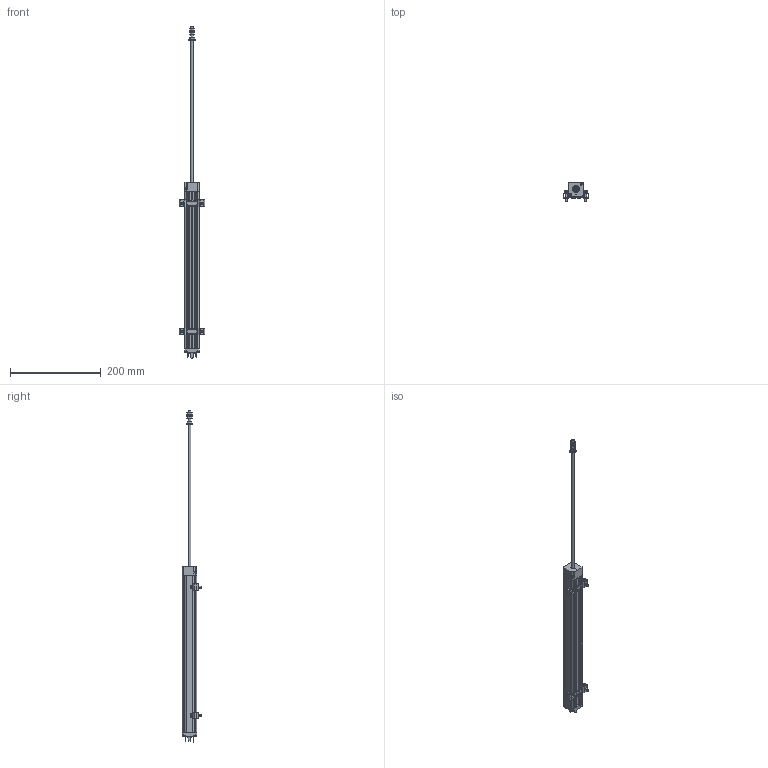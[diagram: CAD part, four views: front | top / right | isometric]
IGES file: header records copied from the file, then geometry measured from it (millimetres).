
Start section: SolidWorks IGES file using analytic representation for surfaces
Global section: file name: E:\Salzinger\I-net_3D\LWH_Essentials\LWH_prts\LWH_300.IGS; native system: SolidWorks 2008; preprocessor: SolidWorks 2008; author: salzinger; date: 081106.130239; units: millimetre
Bounding box: 56 x 43.08 x 731 mm (x, y, z)
Surface area: 94818.6 mm2 (no closed solid volume)
Topology: 0 solids, 0 shells, 1066 faces, 13290 edges, 13258 vertices
Faces by surface type: bspline 560, revolution 506
